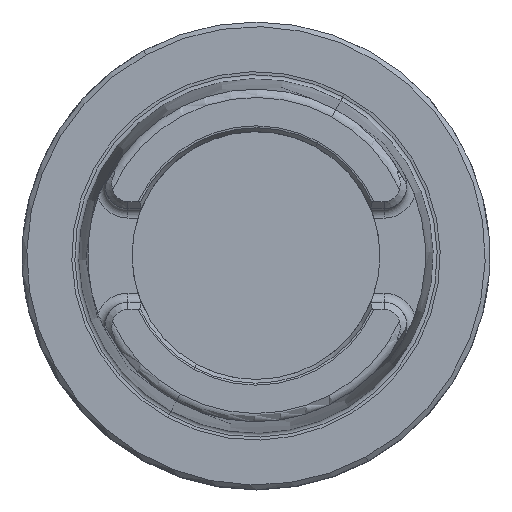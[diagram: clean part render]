
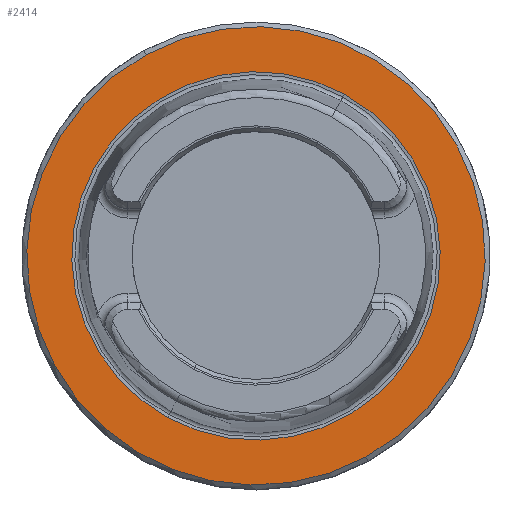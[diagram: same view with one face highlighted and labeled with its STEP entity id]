
A CAD part, top view. The second image highlights one B-rep face of the part: STEP entity #2414.
In plain terms, the highlighted planar face has unit normal (0, 0, 1).
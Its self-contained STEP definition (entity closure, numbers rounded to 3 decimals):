
#2356=AXIS2_PLACEMENT_3D('Circle Axis2P3D',#2354,#2355,$) ;
#2376=AXIS2_PLACEMENT_3D('Circle Axis2P3D',#2374,#2375,$) ;
#2390=AXIS2_PLACEMENT_3D('Plane Axis2P3D',#2387,#2388,#2389) ;
#2398=AXIS2_PLACEMENT_3D('Circle Axis2P3D',#2396,#2397,$) ;
#2407=AXIS2_PLACEMENT_3D('Circle Axis2P3D',#2405,#2406,$) ;
#2351=CARTESIAN_POINT('Vertex',(23.492,-43.002,0.)) ;
#2354=CARTESIAN_POINT('Axis2P3D Location',(0.,0.,0.)) ;
#2358=CARTESIAN_POINT('Vertex',(-23.492,43.002,0.)) ;
#2374=CARTESIAN_POINT('Axis2P3D Location',(0.,0.,0.)) ;
#2387=CARTESIAN_POINT('Axis2P3D Location',(0.,-38.285,0.)) ;
#2396=CARTESIAN_POINT('Axis2P3D Location',(0.,0.,0.)) ;
#2400=CARTESIAN_POINT('Vertex',(18.88,34.56,0.)) ;
#2402=CARTESIAN_POINT('Vertex',(-18.88,-34.56,0.)) ;
#2405=CARTESIAN_POINT('Axis2P3D Location',(0.,0.,0.)) ;
#2355=DIRECTION('Axis2P3D Direction',(0.,0.,-1.)) ;
#2375=DIRECTION('Axis2P3D Direction',(0.,0.,-1.)) ;
#2388=DIRECTION('Axis2P3D Direction',(0.,0.,-1.)) ;
#2389=DIRECTION('Axis2P3D XDirection',(-1.,0.,0.)) ;
#2397=DIRECTION('Axis2P3D Direction',(0.,0.,-1.)) ;
#2406=DIRECTION('Axis2P3D Direction',(0.,0.,-1.)) ;
#2393=ORIENTED_EDGE('',*,*,#2360,.F.) ;
#2394=ORIENTED_EDGE('',*,*,#2378,.F.) ;
#2411=ORIENTED_EDGE('',*,*,#2404,.T.) ;
#2412=ORIENTED_EDGE('',*,*,#2409,.T.) ;
#2413=FACE_BOUND('',#2410,.T.) ;
#2414=ADVANCED_FACE('NO_CUT',(#2395,#2413),#2391,.F.) ;
#2357=CIRCLE('generated circle',#2356,49.) ;
#2377=CIRCLE('generated circle',#2376,49.) ;
#2399=CIRCLE('generated circle',#2398,39.381) ;
#2408=CIRCLE('generated circle',#2407,39.381) ;
#2360=EDGE_CURVE('',#2352,#2359,#2357,.T.) ;
#2378=EDGE_CURVE('',#2359,#2352,#2377,.T.) ;
#2404=EDGE_CURVE('',#2401,#2403,#2399,.T.) ;
#2409=EDGE_CURVE('',#2403,#2401,#2408,.T.) ;
#2392=EDGE_LOOP('',(#2393,#2394)) ;
#2410=EDGE_LOOP('',(#2411,#2412)) ;
#2395=FACE_OUTER_BOUND('',#2392,.T.) ;
#2391=PLANE('',#2390) ;
#2352=VERTEX_POINT('',#2351) ;
#2359=VERTEX_POINT('',#2358) ;
#2401=VERTEX_POINT('',#2400) ;
#2403=VERTEX_POINT('',#2402) ;
